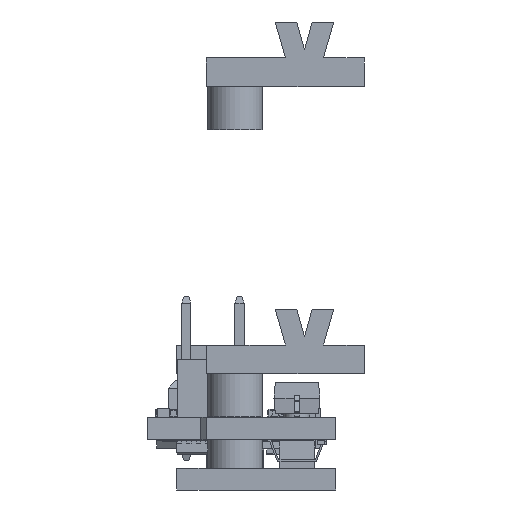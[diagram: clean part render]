
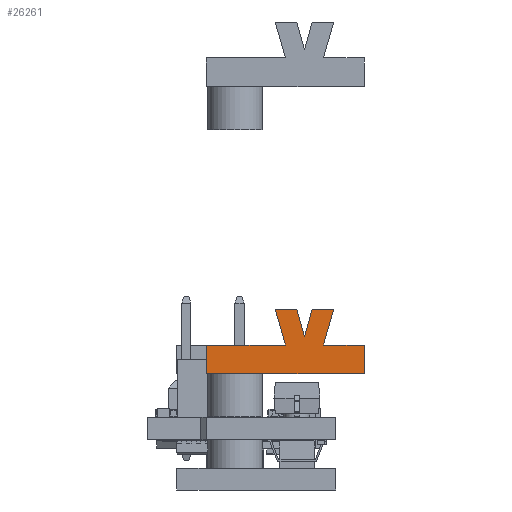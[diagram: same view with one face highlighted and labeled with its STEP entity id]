
A CAD part, left-side view. The second image highlights one B-rep face of the part: STEP entity #26261.
In plain terms, the highlighted planar face has unit normal (-1, 0, 0).
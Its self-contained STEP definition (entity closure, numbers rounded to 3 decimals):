
#3594=FACE_OUTER_BOUND('',#5169,.T.);
#5169=EDGE_LOOP('',(#18536,#18537,#18538,#18539,#18540,#18541,#18542,#18543,
#18544,#18545,#18546));
#7061=LINE('',#37706,#9645);
#7102=LINE('',#37824,#9686);
#7112=LINE('',#37865,#9696);
#7115=LINE('',#37870,#9699);
#7117=LINE('',#37874,#9701);
#7119=LINE('',#37877,#9703);
#7120=LINE('',#37881,#9704);
#7123=LINE('',#37885,#9707);
#7124=LINE('',#37888,#9708);
#7126=LINE('',#37891,#9710);
#7127=LINE('',#37893,#9711);
#9645=VECTOR('',#30480,10.);
#9686=VECTOR('',#30587,10.);
#9696=VECTOR('',#30639,10.);
#9699=VECTOR('',#30644,10.);
#9701=VECTOR('',#30648,10.);
#9703=VECTOR('',#30652,10.);
#9704=VECTOR('',#30655,10.);
#9707=VECTOR('',#30660,10.);
#9708=VECTOR('',#30663,10.);
#9710=VECTOR('',#30667,10.);
#9711=VECTOR('',#30670,10.);
#12186=VERTEX_POINT('',#37703);
#12187=VERTEX_POINT('',#37705);
#12230=VERTEX_POINT('',#37821);
#12231=VERTEX_POINT('',#37823);
#12240=VERTEX_POINT('',#37863);
#12241=VERTEX_POINT('',#37864);
#12242=VERTEX_POINT('',#37869);
#12243=VERTEX_POINT('',#37873);
#12244=VERTEX_POINT('',#37879);
#12245=VERTEX_POINT('',#37880);
#12246=VERTEX_POINT('',#37887);
#14560=EDGE_CURVE('',#12186,#12187,#7061,.T.);
#14619=EDGE_CURVE('',#12230,#12231,#7102,.T.);
#14637=EDGE_CURVE('',#12240,#12241,#7112,.T.);
#14640=EDGE_CURVE('',#12242,#12240,#7115,.T.);
#14642=EDGE_CURVE('',#12243,#12242,#7117,.T.);
#14644=EDGE_CURVE('',#12231,#12243,#7119,.T.);
#14645=EDGE_CURVE('',#12244,#12245,#7120,.T.);
#14648=EDGE_CURVE('',#12241,#12244,#7123,.T.);
#14649=EDGE_CURVE('',#12245,#12246,#7124,.T.);
#14651=EDGE_CURVE('',#12187,#12230,#7126,.T.);
#14652=EDGE_CURVE('',#12186,#12246,#7127,.T.);
#18536=ORIENTED_EDGE('',*,*,#14652,.T.);
#18537=ORIENTED_EDGE('',*,*,#14649,.F.);
#18538=ORIENTED_EDGE('',*,*,#14645,.F.);
#18539=ORIENTED_EDGE('',*,*,#14648,.F.);
#18540=ORIENTED_EDGE('',*,*,#14637,.F.);
#18541=ORIENTED_EDGE('',*,*,#14640,.F.);
#18542=ORIENTED_EDGE('',*,*,#14642,.F.);
#18543=ORIENTED_EDGE('',*,*,#14644,.F.);
#18544=ORIENTED_EDGE('',*,*,#14619,.F.);
#18545=ORIENTED_EDGE('',*,*,#14651,.F.);
#18546=ORIENTED_EDGE('',*,*,#14560,.F.);
#25165=PLANE('',#27935);
#26261=ADVANCED_FACE('',(#3594),#25165,.F.);
#27935=AXIS2_PLACEMENT_3D('',#37894,#30671,#30672);
#30480=DIRECTION('',(0.,1.,0.));
#30587=DIRECTION('',(0.,-1.,0.));
#30639=DIRECTION('',(0.,-0.273,0.962));
#30644=DIRECTION('',(0.,-0.273,-0.962));
#30648=DIRECTION('',(0.,-1.,0.));
#30652=DIRECTION('',(0.,0.273,0.962));
#30655=DIRECTION('',(0.,0.273,-0.962));
#30660=DIRECTION('',(0.,-1.,0.));
#30663=DIRECTION('',(0.,-1.,0.));
#30667=DIRECTION('',(0.,0.,1.));
#30670=DIRECTION('',(0.,0.,1.));
#30671=DIRECTION('center_axis',(1.,0.,0.));
#30672=DIRECTION('ref_axis',(0.,0.,-1.));
#37703=CARTESIAN_POINT('',(-1.,-2.,4.6));
#37705=CARTESIAN_POINT('',(-1.,9.,4.6));
#37706=CARTESIAN_POINT('',(-1.,0.881,4.6));
#37821=CARTESIAN_POINT('',(-1.,9.,6.6));
#37823=CARTESIAN_POINT('',(-1.,3.5,6.6));
#37824=CARTESIAN_POINT('',(-1.,0.881,6.6));
#37863=CARTESIAN_POINT('',(-1.,2.175,7.216));
#37864=CARTESIAN_POINT('',(-1.,1.64,9.1));
#37865=CARTESIAN_POINT('',(-1.,2.175,7.216));
#37869=CARTESIAN_POINT('',(-1.,2.709,9.1));
#37870=CARTESIAN_POINT('',(-1.,2.709,9.1));
#37873=CARTESIAN_POINT('',(-1.,4.209,9.1));
#37874=CARTESIAN_POINT('',(-1.,4.209,9.1));
#37877=CARTESIAN_POINT('',(-1.,3.5,6.6));
#37879=CARTESIAN_POINT('',(-1.,0.14,9.1));
#37880=CARTESIAN_POINT('',(-1.,0.85,6.6));
#37881=CARTESIAN_POINT('',(-1.,0.14,9.1));
#37885=CARTESIAN_POINT('',(-1.,1.64,9.1));
#37887=CARTESIAN_POINT('',(-1.,-2.,6.6));
#37888=CARTESIAN_POINT('',(-1.,0.881,6.6));
#37891=CARTESIAN_POINT('',(-1.,9.,6.1));
#37893=CARTESIAN_POINT('',(-1.,-2.,6.1));
#37894=CARTESIAN_POINT('Origin',(-1.,0.881,6.1));
